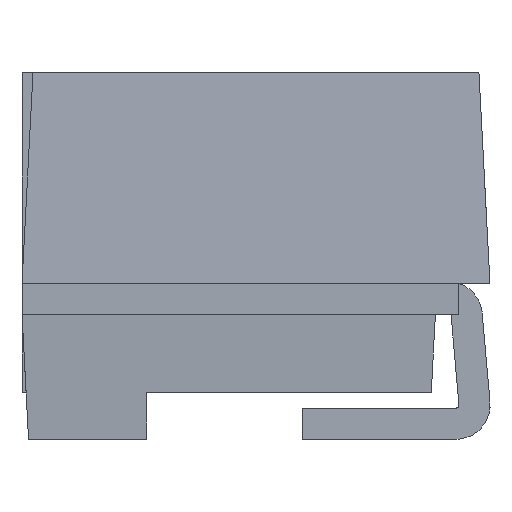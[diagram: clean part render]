
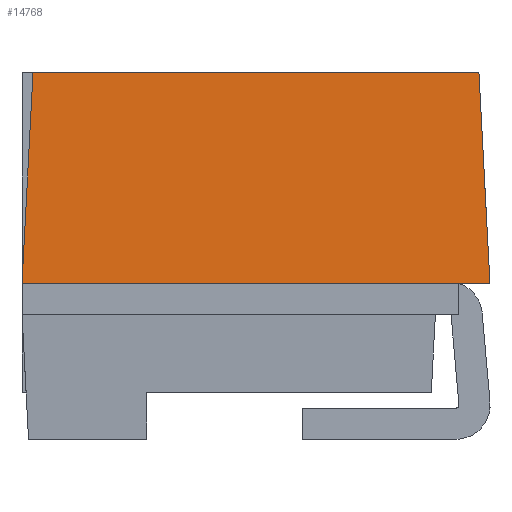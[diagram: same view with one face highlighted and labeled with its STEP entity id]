
A CAD part, left-side view. The second image highlights one B-rep face of the part: STEP entity #14768.
In plain terms, the highlighted planar face has unit normal (-0.999, 0, 0.052).
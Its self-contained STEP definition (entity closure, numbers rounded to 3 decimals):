
#510 = CARTESIAN_POINT ( 'NONE',  ( -3.3, 1.5, 0. ) ) ;
#1329 = VECTOR ( 'NONE', #16805, 1000. ) ;
#1528 = ORIENTED_EDGE ( 'NONE', *, *, #3923, .F. ) ;
#1739 = LINE ( 'NONE', #16487, #10320 ) ;
#2062 = AXIS2_PLACEMENT_3D ( 'NONE', #11127, #12307, #14160 ) ;
#2078 = VERTEX_POINT ( 'NONE', #9262 ) ;
#2394 = CARTESIAN_POINT ( 'NONE',  ( -3.3, -1.3, 0. ) ) ;
#3157 = LINE ( 'NONE', #12854, #16491 ) ;
#3489 = CARTESIAN_POINT ( 'NONE',  ( -3.229, 1.429, 1.35 ) ) ;
#3923 = EDGE_CURVE ( 'NONE', #15455, #2078, #15616, .T. ) ;
#5424 = VECTOR ( 'NONE', #5543, 1000. ) ;
#5543 = DIRECTION ( 'NONE',  ( 0., -1., 0. ) ) ;
#6387 = CARTESIAN_POINT ( 'NONE',  ( -3.3, -1.5, 0. ) ) ;
#6392 = VECTOR ( 'NONE', #17333, 1000. ) ;
#6771 = VERTEX_POINT ( 'NONE', #10349 ) ;
#7144 = DIRECTION ( 'NONE',  ( -0.052, 0.052, -0.997 ) ) ;
#7213 = EDGE_CURVE ( 'NONE', #15455, #7328, #1739, .T. ) ;
#7328 = VERTEX_POINT ( 'NONE', #510 ) ;
#7439 = ORIENTED_EDGE ( 'NONE', *, *, #17627, .F. ) ;
#7959 = ORIENTED_EDGE ( 'NONE', *, *, #9425, .T. ) ;
#8162 = EDGE_LOOP ( 'NONE', ( #7959, #17535, #7439, #1528, #15782 ) ) ;
#9197 = LINE ( 'NONE', #6387, #6392 ) ;
#9262 = CARTESIAN_POINT ( 'NONE',  ( -3.229, -1.429, 1.35 ) ) ;
#9425 = EDGE_CURVE ( 'NONE', #7328, #16867, #9197, .T. ) ;
#10320 = VECTOR ( 'NONE', #7144, 1000. ) ;
#10349 = CARTESIAN_POINT ( 'NONE',  ( -3.3, -1.5, 0. ) ) ;
#10866 = FACE_OUTER_BOUND ( 'NONE', #8162, .T. ) ;
#10901 = CARTESIAN_POINT ( 'NONE',  ( -3.3, -1.5, 0. ) ) ;
#11127 = CARTESIAN_POINT ( 'NONE',  ( -3.3, -1.5, 0. ) ) ;
#12307 = DIRECTION ( 'NONE',  ( -0.999, 0., 0.052 ) ) ;
#12600 = DIRECTION ( 'NONE',  ( -0.052, -0.052, -0.997 ) ) ;
#12854 = CARTESIAN_POINT ( 'NONE',  ( -3.3, -1.5, 0. ) ) ;
#14057 = EDGE_CURVE ( 'NONE', #16867, #6771, #14937, .T. ) ;
#14160 = DIRECTION ( 'NONE',  ( 0.052, 0., 0.999 ) ) ;
#14768 = ADVANCED_FACE ( 'NONE', ( #10866 ), #15169, .T. ) ;
#14937 = LINE ( 'NONE', #10901, #5424 ) ;
#15169 = PLANE ( 'NONE',  #2062 ) ;
#15455 = VERTEX_POINT ( 'NONE', #3489 ) ;
#15616 = LINE ( 'NONE', #15695, #1329 ) ;
#15695 = CARTESIAN_POINT ( 'NONE',  ( -3.229, 0., 1.35 ) ) ;
#15782 = ORIENTED_EDGE ( 'NONE', *, *, #7213, .T. ) ;
#16487 = CARTESIAN_POINT ( 'NONE',  ( -3.292, 1.492, 0.156 ) ) ;
#16491 = VECTOR ( 'NONE', #12600, 1000. ) ;
#16805 = DIRECTION ( 'NONE',  ( 0., -1., 0. ) ) ;
#16867 = VERTEX_POINT ( 'NONE', #2394 ) ;
#17333 = DIRECTION ( 'NONE',  ( 0., -1., 0. ) ) ;
#17535 = ORIENTED_EDGE ( 'NONE', *, *, #14057, .T. ) ;
#17627 = EDGE_CURVE ( 'NONE', #2078, #6771, #3157, .T. ) ;
